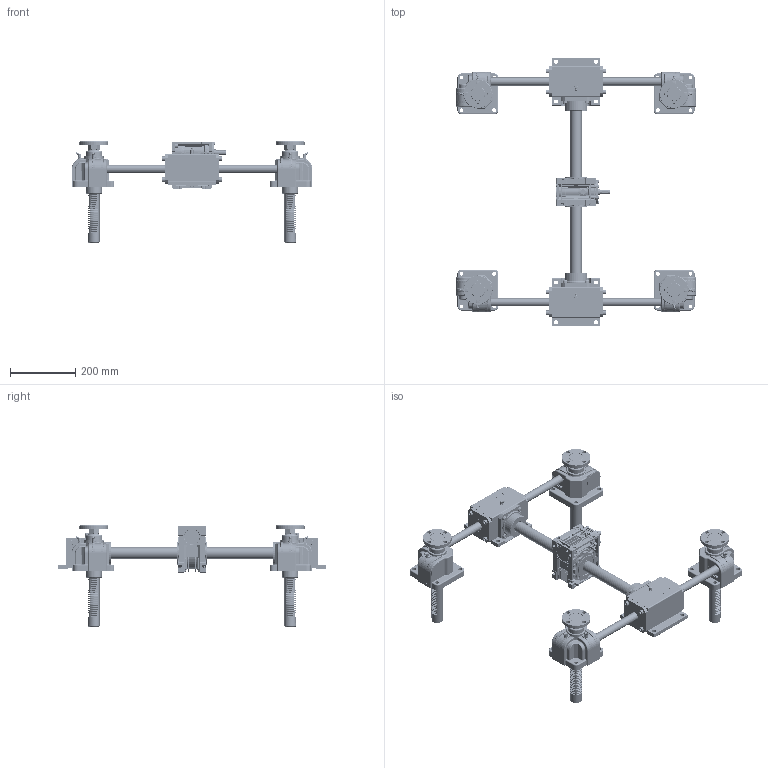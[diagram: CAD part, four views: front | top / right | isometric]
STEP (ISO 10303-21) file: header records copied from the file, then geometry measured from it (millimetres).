
FILE_DESCRIPTION(('STEP AP203'),'1');
FILE_NAME('SPMH1500F-600x600-300-150ST-050.stp','2016-08-08T01:24:35',(' '),(' '),'Spatial InterOp 3D',' ',' ');
FILE_SCHEMA(('CONFIG_CONTROL_DESIGN'));
Length unit declared in the file: millimetre
Products named in the file (155): SPMH1500F-600x600-300-150ST-050; Rack Gear(SP-1500F); Flange.1-Part; Flange.1; Joint.1; Nut.1; Flange.2-Part; Flange.2; Joint.2; Nut.2; Flange.3-Part; Flange.3; Joint.3; Nut.3; Flange.4-Part; Flange.4; Joint.4; Nut.4; Body.1-Part; Nipple; b6205zz; SnapRing-55Pie; Hole Cover(SP-1500); Gear Box.1(NSP-1500); RJ05-4SCJ-610X600-100ST_CAP; LABEL-B.1; ___; 파트18; __ ; Body.2-Part; Gear Box.2(NSP-1500); Body.3-Part; Gear Box.3(NSP-1500); Body.4-Part; Gear Box.4(NSP-1500); Bevel Part-(BG05); Bolt-(BG05); BevelBoxCover1(BG05); BevelBoxCover2(BG05); BevelBoxCover3(BG05)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
Assembly tree (158 placements, depth 6):
  SPMH1500F-600x600-300-150ST-050
    Rack Gear(SP-1500F)  x4
    Flange.1-Part
      Flange.1
      Joint.1
      Nut.1
    Flange.2-Part
      Flange.2
      Joint.2
      Nut.2
    Flange.3-Part
      Flange.3
      Joint.3
      Nut.3
    Flange.4-Part
      Flange.4
      Joint.4
      Nut.4
    Body.1-Part
      Nipple
      Nipple
      b6205zz
      SnapRing-55Pie
      Hole Cover(SP-1500)
      Gear Box.1(NSP-1500)
      __ 
        ___
          RJ05-4SCJ-610X600-100ST_CAP
            LABEL-B.1
          파트18
    Body.2-Part
      Nipple
      Nipple
      b6205zz
      SnapRing-55Pie
      Hole Cover(SP-1500)
      Gear Box.2(NSP-1500)
      __ 
        ___
          RJ05-4SCJ-610X600-100ST_CAP
            LABEL-B.1
          파트18
    Body.3-Part
      Nipple
      Nipple
      b6205zz
      SnapRing-55Pie
      Hole Cover(SP-1500)
      Gear Box.3(NSP-1500)
      __ 
        ___
          RJ05-4SCJ-610X600-100ST_CAP
            LABEL-B.1
          파트18
    Body.4-Part
      Nipple
      Nipple
      b6205zz
      SnapRing-55Pie
      Hole Cover(SP-1500)
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Bounding box: 735.36 x 821.5 x 310 mm (x, y, z)
Volume: 6761941.9 mm3; surface area: 1694429.1 mm2
Topology: 142 solids, 237 shells, 16135 faces, 45119 edges, 29555 vertices
Faces by surface type: plane 12738, cylinder 2065, torus 416, bspline 224, revolution 214, cone 200, extrusion 190, sphere 88
Full cylindrical faces by diameter (mm): 3.087 x8, 3.775 x3, 4.8 x10, 4.917 x1, 5.55 x4, 6 x2, 6.4 x1, 6.647 x8, 8 x56, 8.8 x8, 9.5 x24, 9.886 x10, 10 x16, 12 x40, 14 x25, 16 x1, 20 x1, 25 x25, 26 x4, 27 x4, 28 x9, 30 x2, 32.5 x8, 34 x1, 35 x6, 36 x4, 37 x6, 38 x4, 39 x12, 39.4 x4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
Entity records: 506891 total; most frequent: CARTESIAN_POINT 118818, ORIENTED_EDGE 81541, DIRECTION 72295, EDGE_CURVE 40957, VECTOR 35227, LINE 35037, VERTEX_POINT 27303, AXIS2_PLACEMENT_3D 18427
